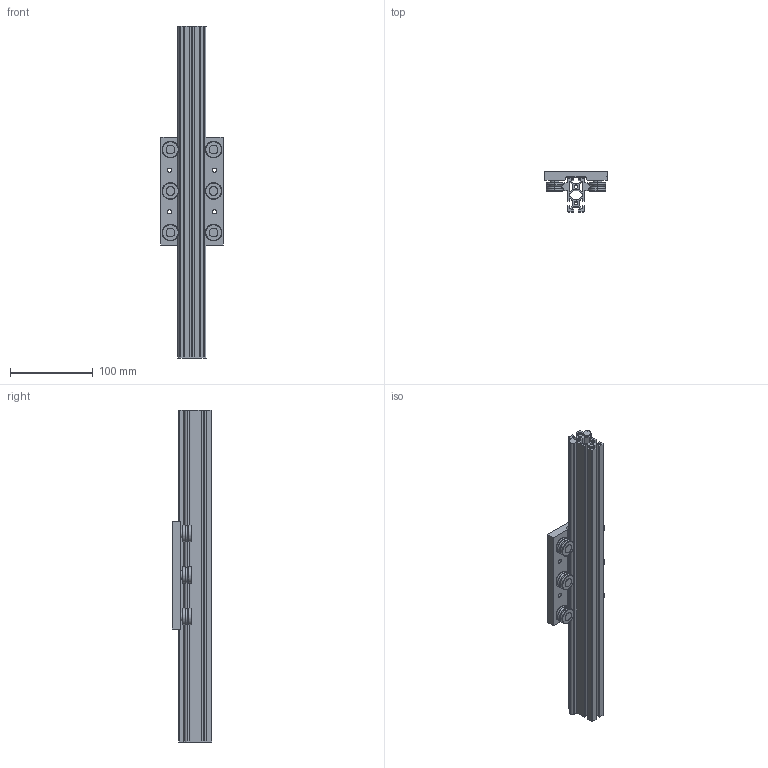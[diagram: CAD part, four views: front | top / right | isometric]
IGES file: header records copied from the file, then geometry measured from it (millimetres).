
Start section: SolidWorks IGES file using analytic representation for surfaces
Bounding box: 75 x 48 x 400 mm (x, y, z)
Surface area: 177755.4 mm2 (no closed solid volume)
Topology: 0 solids, 0 shells, 467 faces, 6102 edges, 6102 vertices
Faces by surface type: bspline 245, revolution 222
